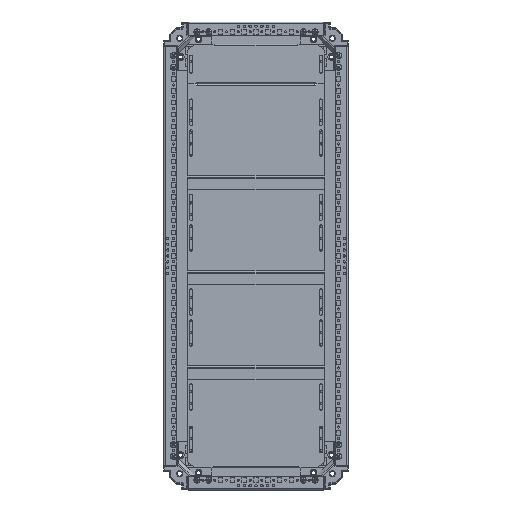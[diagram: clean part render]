
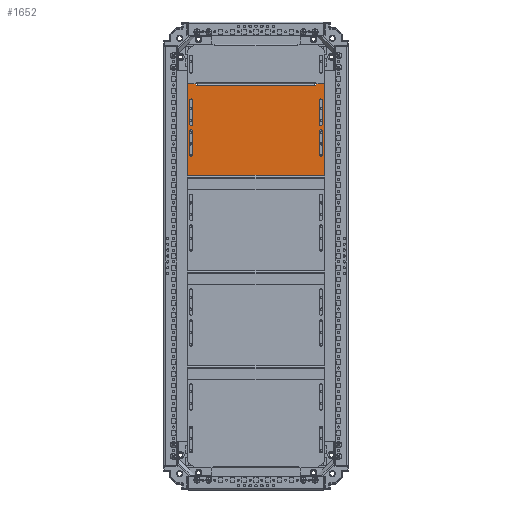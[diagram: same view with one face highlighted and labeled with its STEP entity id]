
A CAD part, top view. The second image highlights one B-rep face of the part: STEP entity #1652.
In plain terms, the highlighted planar face has unit normal (0, 0, 1).
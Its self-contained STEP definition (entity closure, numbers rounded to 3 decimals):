
#1652=ADVANCED_FACE('',(#14612,#14614,#14616,#14618,#14620),#14622,.T.);
#14612=FACE_BOUND('',#14613,.T.);
#14613=EDGE_LOOP('',(#29381,#29382,#29383,#29384,#29385,#29386,#29387,#29388,#29389,
#29390));
#14614=FACE_BOUND('',#14615,.T.);
#14615=EDGE_LOOP('',(#29391,#29392,#29393,#29394));
#14616=FACE_BOUND('',#14617,.T.);
#14617=EDGE_LOOP('',(#29395,#29396,#29397,#29398));
#14618=FACE_BOUND('',#14619,.T.);
#14619=EDGE_LOOP('',(#29399,#29400,#29401,#29402));
#14620=FACE_BOUND('',#14621,.T.);
#14621=EDGE_LOOP('',(#29403,#29404,#29405,#29406));
#14622=PLANE('',#14623);
#14623=AXIS2_PLACEMENT_3D('',#14624,#14625,#14626);
#14624=CARTESIAN_POINT('',(145.,170.85,17.5));
#14625=DIRECTION('',(0.,0.,1.));
#14626=DIRECTION('',(0.,-1.,0.));
#29381=ORIENTED_EDGE('',*,*,#38294,.F.);
#29382=ORIENTED_EDGE('',*,*,#38295,.F.);
#29383=ORIENTED_EDGE('',*,*,#38265,.T.);
#29384=ORIENTED_EDGE('',*,*,#38296,.F.);
#29385=ORIENTED_EDGE('',*,*,#38297,.F.);
#29386=ORIENTED_EDGE('',*,*,#38242,.T.);
#29387=ORIENTED_EDGE('',*,*,#38298,.T.);
#29388=ORIENTED_EDGE('',*,*,#38299,.F.);
#29389=ORIENTED_EDGE('',*,*,#38300,.T.);
#29390=ORIENTED_EDGE('',*,*,#38301,.T.);
#29391=ORIENTED_EDGE('',*,*,#38302,.F.);
#29392=ORIENTED_EDGE('',*,*,#38303,.F.);
#29393=ORIENTED_EDGE('',*,*,#38224,.F.);
#29394=ORIENTED_EDGE('',*,*,#38304,.F.);
#29395=ORIENTED_EDGE('',*,*,#38305,.F.);
#29396=ORIENTED_EDGE('',*,*,#38306,.F.);
#29397=ORIENTED_EDGE('',*,*,#38228,.F.);
#29398=ORIENTED_EDGE('',*,*,#38307,.F.);
#29399=ORIENTED_EDGE('',*,*,#38308,.F.);
#29400=ORIENTED_EDGE('',*,*,#38309,.F.);
#29401=ORIENTED_EDGE('',*,*,#38232,.F.);
#29402=ORIENTED_EDGE('',*,*,#38310,.F.);
#29403=ORIENTED_EDGE('',*,*,#38311,.F.);
#29404=ORIENTED_EDGE('',*,*,#38312,.F.);
#29405=ORIENTED_EDGE('',*,*,#38236,.F.);
#29406=ORIENTED_EDGE('',*,*,#38313,.F.);
#38224=EDGE_CURVE('',#46400,#46402,#46403,.T.);
#38228=EDGE_CURVE('',#46408,#46410,#46411,.T.);
#38232=EDGE_CURVE('',#46416,#46418,#46419,.T.);
#38236=EDGE_CURVE('',#46424,#46426,#46427,.T.);
#38242=EDGE_CURVE('',#46432,#46436,#46438,.T.);
#38265=EDGE_CURVE('',#46474,#46479,#46480,.T.);
#38294=EDGE_CURVE('',#46487,#46527,#46528,.T.);
#38295=EDGE_CURVE('',#46474,#46487,#46529,.T.);
#38296=EDGE_CURVE('',#46530,#46479,#46531,.T.);
#38297=EDGE_CURVE('',#46432,#46530,#46532,.T.);
#38298=EDGE_CURVE('',#46436,#46533,#46534,.T.);
#38299=EDGE_CURVE('',#46535,#46533,#46536,.T.);
#38300=EDGE_CURVE('',#46535,#46537,#46538,.T.);
#38301=EDGE_CURVE('',#46537,#46527,#46539,.T.);
#38302=EDGE_CURVE('',#46540,#46541,#46542,.T.);
#38303=EDGE_CURVE('',#46402,#46540,#46543,.T.);
#38304=EDGE_CURVE('',#46541,#46400,#46544,.T.);
#38305=EDGE_CURVE('',#46545,#46546,#46547,.T.);
#38306=EDGE_CURVE('',#46410,#46545,#46548,.T.);
#38307=EDGE_CURVE('',#46546,#46408,#46549,.T.);
#38308=EDGE_CURVE('',#46550,#46551,#46552,.T.);
#38309=EDGE_CURVE('',#46418,#46550,#46553,.T.);
#38310=EDGE_CURVE('',#46551,#46416,#46554,.T.);
#38311=EDGE_CURVE('',#46555,#46556,#46557,.T.);
#38312=EDGE_CURVE('',#46426,#46555,#46558,.T.);
#38313=EDGE_CURVE('',#46556,#46424,#46559,.T.);
#46400=VERTEX_POINT('',#70692);
#46402=VERTEX_POINT('',#70696);
#46403=CIRCLE('',#70697,3.5);
#46408=VERTEX_POINT('',#70710);
#46410=VERTEX_POINT('',#70714);
#46411=CIRCLE('',#70715,3.5);
#46416=VERTEX_POINT('',#70728);
#46418=VERTEX_POINT('',#70732);
#46419=CIRCLE('',#70733,3.5);
#46424=VERTEX_POINT('',#70746);
#46426=VERTEX_POINT('',#70750);
#46427=CIRCLE('',#70751,3.5);
#46432=VERTEX_POINT('',#70764);
#46436=VERTEX_POINT('',#70772);
#46438=LINE('',#70776,#70777);
#46474=VERTEX_POINT('',#70858);
#46479=VERTEX_POINT('',#70871);
#46480=LINE('',#70872,#70873);
#46487=VERTEX_POINT('',#70887);
#46527=VERTEX_POINT('',#70983);
#46528=LINE('',#70984,#70985);
#46529=LINE('',#70987,#70988);
#46530=VERTEX_POINT('',#70990);
#46531=LINE('',#70991,#70992);
#46532=LINE('',#70994,#70995);
#46533=VERTEX_POINT('',#70997);
#46534=LINE('',#70998,#70999);
#46535=VERTEX_POINT('',#71001);
#46536=LINE('',#71002,#71003);
#46537=VERTEX_POINT('',#71005);
#46538=LINE('',#71006,#71007);
#46539=LINE('',#71009,#71010);
#46540=VERTEX_POINT('',#71012);
#46541=VERTEX_POINT('',#71013);
#46542=CIRCLE('',#71014,3.5);
#46543=LINE('',#71018,#71019);
#46544=LINE('',#71021,#71022);
#46545=VERTEX_POINT('',#71024);
#46546=VERTEX_POINT('',#71025);
#46547=CIRCLE('',#71026,3.5);
#46548=LINE('',#71030,#71031);
#46549=LINE('',#71033,#71034);
#46550=VERTEX_POINT('',#71036);
#46551=VERTEX_POINT('',#71037);
#46552=CIRCLE('',#71038,3.5);
#46553=LINE('',#71042,#71043);
#46554=LINE('',#71045,#71046);
#46555=VERTEX_POINT('',#71048);
#46556=VERTEX_POINT('',#71049);
#46557=CIRCLE('',#71050,3.5);
#46558=LINE('',#71054,#71055);
#46559=LINE('',#71057,#71058);
#70692=CARTESIAN_POINT('',(134.,215.35,17.5));
#70696=CARTESIAN_POINT('',(141.,215.35,17.5));
#70697=AXIS2_PLACEMENT_3D('',#70698,#70699,#70700);
#70698=CARTESIAN_POINT('',(137.5,215.35,17.5));
#70699=DIRECTION('',(0.,0.,1.));
#70700=DIRECTION('',(-1.,0.,0.));
#70710=CARTESIAN_POINT('',(-141.,280.35,17.5));
#70714=CARTESIAN_POINT('',(-134.,280.35,17.5));
#70715=AXIS2_PLACEMENT_3D('',#70716,#70717,#70718);
#70716=CARTESIAN_POINT('',(-137.5,280.35,17.5));
#70717=DIRECTION('',(0.,0.,1.));
#70718=DIRECTION('',(-1.,0.,0.));
#70728=CARTESIAN_POINT('',(-141.,215.35,17.5));
#70732=CARTESIAN_POINT('',(-134.,215.35,17.5));
#70733=AXIS2_PLACEMENT_3D('',#70734,#70735,#70736);
#70734=CARTESIAN_POINT('',(-137.5,215.35,17.5));
#70735=DIRECTION('',(0.,0.,1.));
#70736=DIRECTION('',(-1.,0.,0.));
#70746=CARTESIAN_POINT('',(134.,280.35,17.5));
#70750=CARTESIAN_POINT('',(141.,280.35,17.5));
#70751=AXIS2_PLACEMENT_3D('',#70752,#70753,#70754);
#70752=CARTESIAN_POINT('',(137.5,280.35,17.5));
#70753=DIRECTION('',(0.,0.,1.));
#70754=DIRECTION('',(-1.,0.,0.));
#70764=CARTESIAN_POINT('',(127.,361.55,17.5));
#70772=CARTESIAN_POINT('',(125.,361.55,17.5));
#70776=CARTESIAN_POINT('',(127.,361.55,17.5));
#70777=VECTOR('',#70778,1.);
#70778=DIRECTION('',(-1.,0.,0.));
#70858=CARTESIAN_POINT('',(145.,171.167,17.5));
#70871=CARTESIAN_POINT('',(145.,364.85,17.5));
#70872=CARTESIAN_POINT('',(145.,171.167,17.5));
#70873=VECTOR('',#70874,1.);
#70874=DIRECTION('',(0.,1.,0.));
#70887=CARTESIAN_POINT('',(-145.,171.167,17.5));
#70983=CARTESIAN_POINT('',(-145.,364.85,17.5));
#70984=CARTESIAN_POINT('',(-145.,171.167,17.5));
#70985=VECTOR('',#70986,1.);
#70986=DIRECTION('',(0.,1.,0.));
#70987=CARTESIAN_POINT('',(145.,171.167,17.5));
#70988=VECTOR('',#70989,1.);
#70989=DIRECTION('',(-1.,0.,0.));
#70990=CARTESIAN_POINT('',(127.,364.85,17.5));
#70991=CARTESIAN_POINT('',(127.,364.85,17.5));
#70992=VECTOR('',#70993,1.);
#70993=DIRECTION('',(1.,0.,0.));
#70994=CARTESIAN_POINT('',(127.,361.55,17.5));
#70995=VECTOR('',#70996,1.);
#70996=DIRECTION('',(0.,1.,0.));
#70997=CARTESIAN_POINT('',(-125.,361.55,17.5));
#70998=CARTESIAN_POINT('',(125.,361.55,17.5));
#70999=VECTOR('',#71000,1.);
#71000=DIRECTION('',(-1.,0.,0.));
#71001=CARTESIAN_POINT('',(-127.,361.55,17.5));
#71002=CARTESIAN_POINT('',(-127.,361.55,17.5));
#71003=VECTOR('',#71004,1.);
#71004=DIRECTION('',(1.,0.,0.));
#71005=CARTESIAN_POINT('',(-127.,364.85,17.5));
#71006=CARTESIAN_POINT('',(-127.,361.55,17.5));
#71007=VECTOR('',#71008,1.);
#71008=DIRECTION('',(0.,1.,0.));
#71009=CARTESIAN_POINT('',(-127.,364.85,17.5));
#71010=VECTOR('',#71011,1.);
#71011=DIRECTION('',(-1.,0.,0.));
#71012=CARTESIAN_POINT('',(141.,264.35,17.5));
#71013=CARTESIAN_POINT('',(134.,264.35,17.5));
#71014=AXIS2_PLACEMENT_3D('',#71015,#71016,#71017);
#71015=CARTESIAN_POINT('',(137.5,264.35,17.5));
#71016=DIRECTION('',(0.,0.,1.));
#71017=DIRECTION('',(1.,0.,0.));
#71018=CARTESIAN_POINT('',(141.,215.35,17.5));
#71019=VECTOR('',#71020,1.);
#71020=DIRECTION('',(0.,1.,0.));
#71021=CARTESIAN_POINT('',(134.,264.35,17.5));
#71022=VECTOR('',#71023,1.);
#71023=DIRECTION('',(0.,-1.,0.));
#71024=CARTESIAN_POINT('',(-134.,329.35,17.5));
#71025=CARTESIAN_POINT('',(-141.,329.35,17.5));
#71026=AXIS2_PLACEMENT_3D('',#71027,#71028,#71029);
#71027=CARTESIAN_POINT('',(-137.5,329.35,17.5));
#71028=DIRECTION('',(0.,0.,1.));
#71029=DIRECTION('',(1.,0.,0.));
#71030=CARTESIAN_POINT('',(-134.,280.35,17.5));
#71031=VECTOR('',#71032,1.);
#71032=DIRECTION('',(0.,1.,0.));
#71033=CARTESIAN_POINT('',(-141.,329.35,17.5));
#71034=VECTOR('',#71035,1.);
#71035=DIRECTION('',(0.,-1.,0.));
#71036=CARTESIAN_POINT('',(-134.,264.35,17.5));
#71037=CARTESIAN_POINT('',(-141.,264.35,17.5));
#71038=AXIS2_PLACEMENT_3D('',#71039,#71040,#71041);
#71039=CARTESIAN_POINT('',(-137.5,264.35,17.5));
#71040=DIRECTION('',(0.,0.,1.));
#71041=DIRECTION('',(1.,0.,0.));
#71042=CARTESIAN_POINT('',(-134.,215.35,17.5));
#71043=VECTOR('',#71044,1.);
#71044=DIRECTION('',(0.,1.,0.));
#71045=CARTESIAN_POINT('',(-141.,264.35,17.5));
#71046=VECTOR('',#71047,1.);
#71047=DIRECTION('',(0.,-1.,0.));
#71048=CARTESIAN_POINT('',(141.,329.35,17.5));
#71049=CARTESIAN_POINT('',(134.,329.35,17.5));
#71050=AXIS2_PLACEMENT_3D('',#71051,#71052,#71053);
#71051=CARTESIAN_POINT('',(137.5,329.35,17.5));
#71052=DIRECTION('',(0.,0.,1.));
#71053=DIRECTION('',(1.,0.,0.));
#71054=CARTESIAN_POINT('',(141.,280.35,17.5));
#71055=VECTOR('',#71056,1.);
#71056=DIRECTION('',(0.,1.,0.));
#71057=CARTESIAN_POINT('',(134.,329.35,17.5));
#71058=VECTOR('',#71059,1.);
#71059=DIRECTION('',(0.,-1.,0.));
